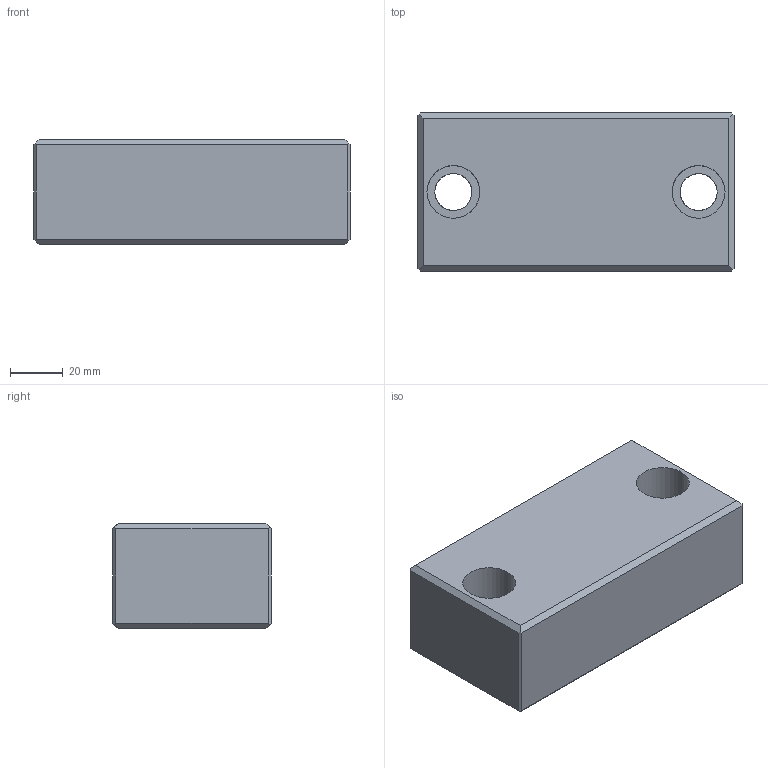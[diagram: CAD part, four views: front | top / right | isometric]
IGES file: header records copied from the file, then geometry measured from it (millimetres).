
Start section: START RECORD GO HERE.
Global section: file name: 759+120+60+40+6.igs; native system: DASSAULT SYSTEMES CATIA V5 R20 - www.3ds.com; preprocessor: CATIA Version 5 Release 20 ; author: Utente; organization: NB04-ASUS; date: 20201028.201409; units: millimetre
Bounding box: 120 x 60 x 40 mm (x, y, z)
Surface area: 32040.6 mm2 (no closed solid volume)
Topology: 0 solids, 0 shells, 28 faces, 144 edges, 144 vertices
Faces by surface type: plane 20, revolution 8
